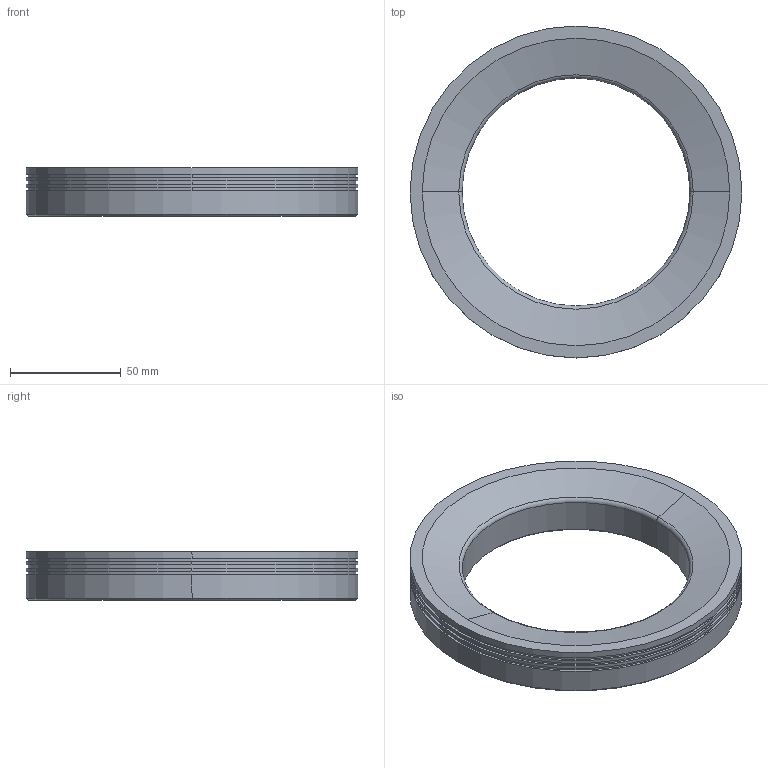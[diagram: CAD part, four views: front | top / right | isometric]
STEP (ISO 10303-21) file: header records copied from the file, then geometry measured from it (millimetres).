
FILE_DESCRIPTION((''),'2;1');
FILE_NAME('DRL7030','2020-03-28T',('ASUS'),(''),'PRO/ENGINEER BY PARAMETRIC TECHNOLOGY CORPORATION, 2008380','PRO/ENGINEER BY PARAMETRIC TECHNOLOGY CORPORATION, 2008380','');
FILE_SCHEMA(('CONFIG_CONTROL_DESIGN'));
Length unit declared in the file: millimetre
Products named in the file (1): DRL7030
Bounding box: 150 x 150 x 22 mm (x, y, z)
Volume: 186965.6 mm3; surface area: 37459.3 mm2
Topology: 1 solids, 5 shells, 68 faces, 152 edges, 92 vertices
Faces by surface type: cylinder 32, cone 22, plane 12, torus 2
Entity records: 1901 total; most frequent: DIRECTION 372, CARTESIAN_POINT 305, ORIENTED_EDGE 272, AXIS2_PLACEMENT_3D 159, EDGE_CURVE 144, VERTEX_POINT 92, CIRCLE 90, EDGE_LOOP 84
